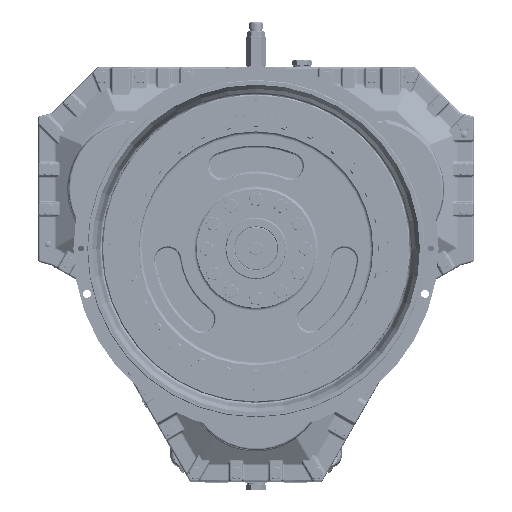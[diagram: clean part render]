
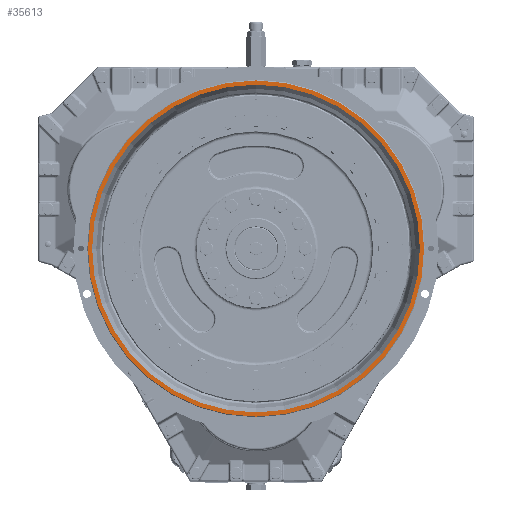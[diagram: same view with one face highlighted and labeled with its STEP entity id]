
A CAD part, top view. The second image highlights one B-rep face of the part: STEP entity #35613.
In plain terms, the highlighted planar face has unit normal (0, 0, 1).
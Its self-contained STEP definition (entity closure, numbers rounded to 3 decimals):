
#21562 = DIRECTION ( 'NONE',  ( -1., 0., 0. ) ) ;
#35613 = ADVANCED_FACE ( 'NONE', ( #359678, #47434 ), #395294, .F. ) ;
#47434 = FACE_BOUND ( 'NONE', #199276, .T. ) ;
#50398 = AXIS2_PLACEMENT_3D ( 'NONE', #339990, #114667, #377849 ) ;
#51908 = ORIENTED_EDGE ( 'NONE', *, *, #136296, .T. ) ;
#77409 = CARTESIAN_POINT ( 'NONE',  ( 0., 0., 55. ) ) ;
#79275 = CARTESIAN_POINT ( 'NONE',  ( -248.268, 0., 55. ) ) ;
#85466 = CIRCLE ( 'NONE', #238050, 254.59 ) ;
#114667 = DIRECTION ( 'NONE',  ( 0., 0., 1. ) ) ;
#115469 = DIRECTION ( 'NONE',  ( -1., 0., 0. ) ) ;
#136296 = EDGE_CURVE ( 'NONE', #343697, #343697, #85466, .T. ) ;
#165225 = CIRCLE ( 'NONE', #50398, 248.268 ) ;
#181081 = ORIENTED_EDGE ( 'NONE', *, *, #414379, .F. ) ;
#199276 = EDGE_LOOP ( 'NONE', ( #181081 ) ) ;
#233663 = AXIS2_PLACEMENT_3D ( 'NONE', #472546, #247242, #21562 ) ;
#238050 = AXIS2_PLACEMENT_3D ( 'NONE', #77409, #340817, #115469 ) ;
#247242 = DIRECTION ( 'NONE',  ( 0., 0., -1. ) ) ;
#313304 = VERTEX_POINT ( 'NONE', #79275 ) ;
#339990 = CARTESIAN_POINT ( 'NONE',  ( 0., 0., 55. ) ) ;
#340817 = DIRECTION ( 'NONE',  ( 0., 0., 1. ) ) ;
#343697 = VERTEX_POINT ( 'NONE', #391787 ) ;
#344355 = EDGE_LOOP ( 'NONE', ( #51908 ) ) ;
#359678 = FACE_OUTER_BOUND ( 'NONE', #344355, .T. ) ;
#377849 = DIRECTION ( 'NONE',  ( -1., 0., 0. ) ) ;
#391787 = CARTESIAN_POINT ( 'NONE',  ( -254.59, 0., 55. ) ) ;
#395294 = PLANE ( 'NONE',  #233663 ) ;
#414379 = EDGE_CURVE ( 'NONE', #313304, #313304, #165225, .T. ) ;
#472546 = CARTESIAN_POINT ( 'NONE',  ( 0., 0., 55. ) ) ;
